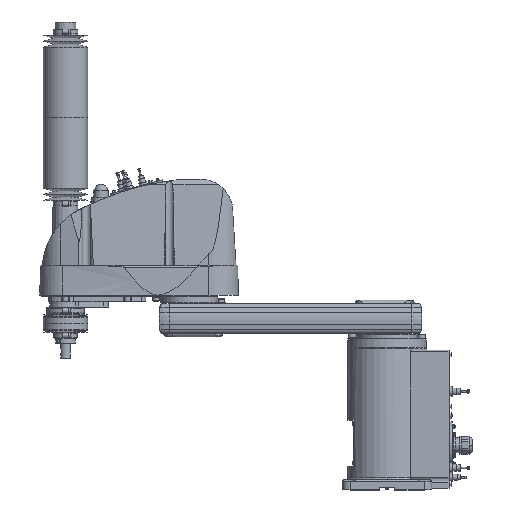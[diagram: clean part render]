
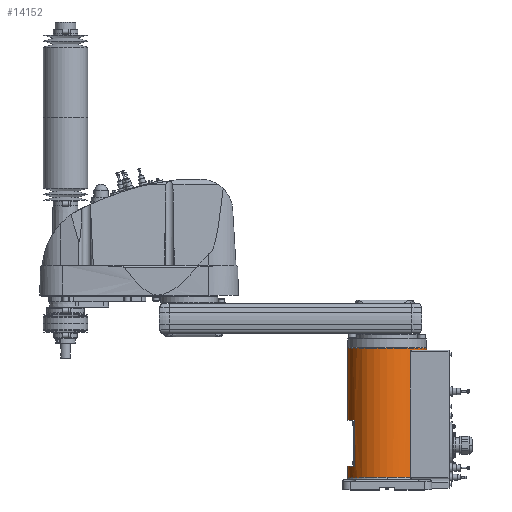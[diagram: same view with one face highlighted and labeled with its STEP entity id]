
A CAD part, top view. The second image highlights one B-rep face of the part: STEP entity #14152.
In plain terms, the highlighted cylindrical face has radius 80 mm (diameter 160 mm), a partial arc.
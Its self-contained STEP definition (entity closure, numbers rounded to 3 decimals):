
#11272 = EDGE_CURVE( '', #17736, #13720, #29388, .T. );
#11400 = VERTEX_POINT( '', #29527 );
#11530 = VERTEX_POINT( '', #29670 );
#11734 = VERTEX_POINT( '', #29900 );
#12138 = EDGE_CURVE( '', #11734, #17736, #30333, .T. );
#12610 = VERTEX_POINT( '', #30853 );
#12938 = VERTEX_POINT( '', #31219 );
#13280 = VERTEX_POINT( '', #31597 );
#13614 = EDGE_CURVE( '', #13280, #11400, #31966, .T. );
#13720 = VERTEX_POINT( '', #32083 );
#14152 = ADVANCED_FACE( '', ( #32562 ), #32563, .T. );
#14500 = EDGE_CURVE( '', #19392, #11734, #32945, .T. );
#15052 = EDGE_CURVE( '', #19392, #12610, #33573, .T. );
#15430 = VERTEX_POINT( '', #34006 );
#15808 = EDGE_CURVE( '', #11530, #18898, #34427, .T. );
#17240 = EDGE_CURVE( '', #21384, #12938, #36066, .T. );
#17736 = VERTEX_POINT( '', #36611 );
#18898 = VERTEX_POINT( '', #37918 );
#19190 = EDGE_CURVE( '', #15430, #12610, #38241, .T. );
#19392 = VERTEX_POINT( '', #38470 );
#21384 = VERTEX_POINT( '', #40699 );
#21536 = EDGE_CURVE( '', #11530, #13280, #40869, .T. );
#22234 = EDGE_CURVE( '', #18898, #21384, #41646, .T. );
#23858 = EDGE_CURVE( '', #15430, #12938, #43438, .T. );
#25644 = EDGE_CURVE( '', #11400, #13720, #45459, .T. );
#29388 = CIRCLE( '', #50623, 80. );
#29527 = CARTESIAN_POINT( '', ( -80., -291.5, 0. ) );
#29670 = CARTESIAN_POINT( '', ( 46.637, -291.5, 65. ) );
#29900 = CARTESIAN_POINT( '', ( -66., -176., 45.211 ) );
#30333 = LINE( '', #52111, #52112 );
#30853 = CARTESIAN_POINT( '', ( -80., -30., 0. ) );
#31219 = CARTESIAN_POINT( '', ( 80., -34.5, 0. ) );
#31597 = CARTESIAN_POINT( '', ( 0., -291.5, 80. ) );
#31966 = CIRCLE( '', #54739, 80. );
#32083 = CARTESIAN_POINT( '', ( -80., -269., 0. ) );
#32562 = FACE_OUTER_BOUND( '', #55757, .T. );
#32563 = CYLINDRICAL_SURFACE( '', #55758, 80. );
#32945 = CIRCLE( '', #56385, 80. );
#33573 = LINE( '', #57306, #57307 );
#34006 = CARTESIAN_POINT( '', ( 80., -30., 0. ) );
#34427 = LINE( '', #58534, #58535 );
#36066 = CIRCLE( '', #61063, 80. );
#36611 = CARTESIAN_POINT( '', ( -66., -269., 45.211 ) );
#37918 = CARTESIAN_POINT( '', ( 46.637, -37.5, 65. ) );
#38241 = CIRCLE( '', #64536, 80. );
#38470 = CARTESIAN_POINT( '', ( -80., -176., 0. ) );
#40699 = CARTESIAN_POINT( '', ( 50.557, -34.5, 62. ) );
#40869 = CIRCLE( '', #68394, 80. );
#41646 = B_SPLINE_CURVE_WITH_KNOTS( '', 3, ( #69618, #69619, #69620, #69621, #69622, #69623, #69624, #69625, #69626, #69627, #69628, #69629, #69630, #69631, #69632, #69633 ), .UNSPECIFIED., .F., .F., ( 4, 2, 2, 2, 2, 2, 2, 4 ), ( 11.856, 12.522, 13.187, 13.853, 14.518, 16.226, 17.08, 17.933 ), .UNSPECIFIED. );
#43438 = LINE( '', #72498, #72499 );
#45459 = LINE( '', #75648, #75649 );
#50623 = AXIS2_PLACEMENT_3D( '', #80507, #80508, #80509 );
#52111 = CARTESIAN_POINT( '', ( -66., -222.5, 45.211 ) );
#52112 = VECTOR( '', #81500, 1. );
#54739 = AXIS2_PLACEMENT_3D( '', #83314, #83315, #83316 );
#55757 = EDGE_LOOP( '', ( #83968, #83969, #83970, #83971, #83972, #83973, #83974, #83975, #83976, #83977, #83978, #83979 ) );
#55758 = AXIS2_PLACEMENT_3D( '', #83980, #83981, #83982 );
#56385 = AXIS2_PLACEMENT_3D( '', #84376, #84377, #84378 );
#57306 = CARTESIAN_POINT( '', ( -80., -160.75, 0. ) );
#57307 = VECTOR( '', #85189, 1. );
#58534 = CARTESIAN_POINT( '', ( 46.637, -164.5, 65. ) );
#58535 = VECTOR( '', #86246, 1. );
#61063 = AXIS2_PLACEMENT_3D( '', #88387, #88388, #88389 );
#64536 = AXIS2_PLACEMENT_3D( '', #90822, #90823, #90824 );
#68394 = AXIS2_PLACEMENT_3D( '', #93940, #93941, #93942 );
#69618 = CARTESIAN_POINT( '', ( 46.637, -37.5, 65. ) );
#69619 = CARTESIAN_POINT( '', ( 46.637, -37.278, 65. ) );
#69620 = CARTESIAN_POINT( '', ( 46.671, -37.061, 64.975 ) );
#69621 = CARTESIAN_POINT( '', ( 46.798, -36.648, 64.884 ) );
#69622 = CARTESIAN_POINT( '', ( 46.89, -36.452, 64.818 ) );
#69623 = CARTESIAN_POINT( '', ( 47.114, -36.09, 64.655 ) );
#69624 = CARTESIAN_POINT( '', ( 47.246, -35.923, 64.559 ) );
#69625 = CARTESIAN_POINT( '', ( 47.532, -35.625, 64.349 ) );
#69626 = CARTESIAN_POINT( '', ( 47.685, -35.493, 64.235 ) );
#69627 = CARTESIAN_POINT( '', ( 48.229, -35.087, 63.829 ) );
#69628 = CARTESIAN_POINT( '', ( 48.688, -34.861, 63.481 ) );
#69629 = CARTESIAN_POINT( '', ( 49.396, -34.641, 62.93 ) );
#69630 = CARTESIAN_POINT( '', ( 49.635, -34.587, 62.741 ) );
#69631 = CARTESIAN_POINT( '', ( 50.105, -34.516, 62.366 ) );
#69632 = CARTESIAN_POINT( '', ( 50.336, -34.5, 62.18 ) );
#69633 = CARTESIAN_POINT( '', ( 50.557, -34.5, 62. ) );
#72498 = CARTESIAN_POINT( '', ( 80., -160.75, 0. ) );
#72499 = VECTOR( '', #96902, 1. );
#75648 = CARTESIAN_POINT( '', ( -80., -160.75, 0. ) );
#75649 = VECTOR( '', #99362, 1. );
#80507 = CARTESIAN_POINT( '', ( 0., -269., 0. ) );
#80508 = DIRECTION( '', ( 0., -1., 0. ) );
#80509 = DIRECTION( '', ( 1., 0., 0. ) );
#81500 = DIRECTION( '', ( 0., -1., 0. ) );
#83314 = CARTESIAN_POINT( '', ( 0., -291.5, 0. ) );
#83315 = DIRECTION( '', ( 0., -1., 0. ) );
#83316 = DIRECTION( '', ( 1., 0., 0. ) );
#83968 = ORIENTED_EDGE( '', *, *, #23858, .F. );
#83969 = ORIENTED_EDGE( '', *, *, #19190, .T. );
#83970 = ORIENTED_EDGE( '', *, *, #15052, .F. );
#83971 = ORIENTED_EDGE( '', *, *, #14500, .T. );
#83972 = ORIENTED_EDGE( '', *, *, #12138, .T. );
#83973 = ORIENTED_EDGE( '', *, *, #11272, .T. );
#83974 = ORIENTED_EDGE( '', *, *, #25644, .F. );
#83975 = ORIENTED_EDGE( '', *, *, #13614, .F. );
#83976 = ORIENTED_EDGE( '', *, *, #21536, .F. );
#83977 = ORIENTED_EDGE( '', *, *, #15808, .T. );
#83978 = ORIENTED_EDGE( '', *, *, #22234, .T. );
#83979 = ORIENTED_EDGE( '', *, *, #17240, .T. );
#83980 = CARTESIAN_POINT( '', ( 0., -160.75, 0. ) );
#83981 = DIRECTION( '', ( 0., 1., 0. ) );
#83982 = DIRECTION( '', ( 1., 0., 0. ) );
#84376 = CARTESIAN_POINT( '', ( 0., -176., 0. ) );
#84377 = DIRECTION( '', ( 0., 1., 0. ) );
#84378 = DIRECTION( '', ( 1., 0., 0. ) );
#85189 = DIRECTION( '', ( 0., 1., 0. ) );
#86246 = DIRECTION( '', ( 0., 1., 0. ) );
#88387 = CARTESIAN_POINT( '', ( 0., -34.5, 0. ) );
#88388 = DIRECTION( '', ( 0., 1., 0. ) );
#88389 = DIRECTION( '', ( 1., 0., 0. ) );
#90822 = CARTESIAN_POINT( '', ( 0., -30., 0. ) );
#90823 = DIRECTION( '', ( 0., -1., 0. ) );
#90824 = DIRECTION( '', ( 1., 0., 0. ) );
#93940 = CARTESIAN_POINT( '', ( 0., -291.5, 0. ) );
#93941 = DIRECTION( '', ( 0., -1., 0. ) );
#93942 = DIRECTION( '', ( 1., 0., 0. ) );
#96902 = DIRECTION( '', ( 0., -1., 0. ) );
#99362 = DIRECTION( '', ( 0., 1., 0. ) );
